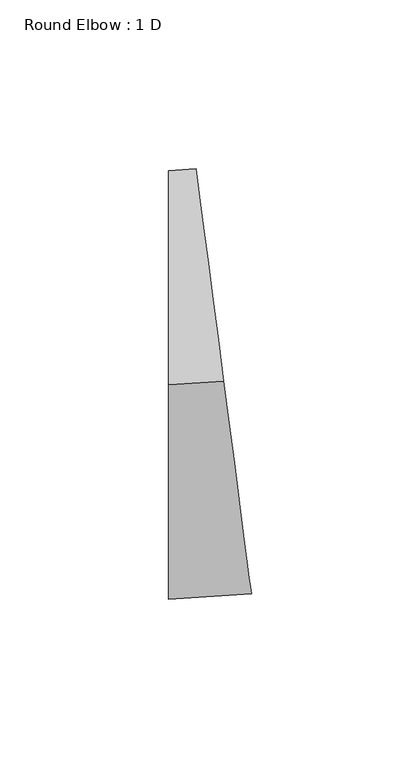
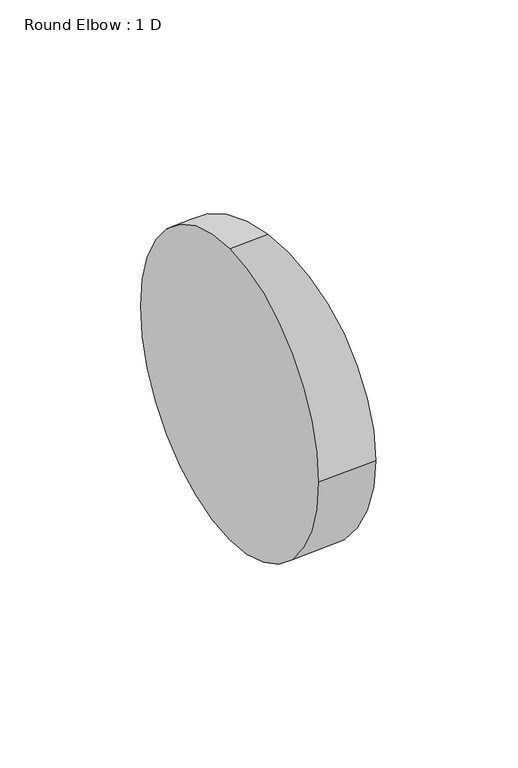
"""IFC4 building model written with IfcOpenShell, lengths in millimetres: duct fitting geometry, Round Elbow : 1 D."""

from ifc_helpers import new_model, si_unit, point, frame, origin, place, context, project, spatial, circle_curve, ellipse_curve, trimmed, source, transform, mapped, element, save
from ifc_brep_helpers import plane_surface, revolved_surface, advanced_brep


def round_elbow_1_d_075332d1(model_context):
    return source(origin(), model_context, "Body", "AdvancedBrep", [
        advanced_brep(
        [(-8.2102409, 0.0, 63.5), (-8.2102409, 63.5, 0.0), (-8.2102409, 0.0, -63.5), (-8.2102409, -63.5, 0.0), (8.1419003, 1.0571261, 63.5), (16.3179709, -61.9143108, 0.0), (8.1419003, 1.0571261, -63.5), (-0.0341703, 64.0285631, 0.0)],
        [
            (0, 1, circle_curve(frame((-8.2102409, 0.0, 0.0), z_axis=(-1.0, 0.0, 0.0), x_axis=(0.0, 1.0, 0.0)), 63.5)),
            (1, 2, circle_curve(frame((-8.2102409, 0.0, 0.0), z_axis=(-1.0, 0.0, 0.0), x_axis=(0.0, 1.0, 0.0)), 63.5)),
            (2, 3, circle_curve(frame((-8.2102409, 0.0, 0.0), z_axis=(-1.0, 0.0, 0.0), x_axis=(0.0, 1.0, 0.0)), 63.5)),
            (3, 0, circle_curve(frame((-8.2102409, 0.0, 0.0), z_axis=(-1.0, 0.0, 0.0), x_axis=(0.0, 1.0, 0.0)), 63.5)),
            (4, 5, circle_curve(frame((8.1419003, 1.0571261, 0.0), z_axis=(0.9916761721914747, 0.1287570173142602, 0.0), x_axis=(-0.1287570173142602, 0.9916761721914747, 0.0)), 63.5)),
            (5, 6, circle_curve(frame((8.1419003, 1.0571261, 0.0), z_axis=(0.9916761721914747, 0.1287570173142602, 0.0), x_axis=(-0.1287570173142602, 0.9916761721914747, 0.0)), 63.5)),
            (6, 7, circle_curve(frame((8.1419003, 1.0571261, 0.0), z_axis=(0.9916761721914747, 0.1287570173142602, 0.0), x_axis=(-0.1287570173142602, 0.9916761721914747, 0.0)), 63.5)),
            (7, 4, circle_curve(frame((8.1419003, 1.0571261, 0.0), z_axis=(0.9916761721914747, 0.1287570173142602, 0.0), x_axis=(-0.1287570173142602, 0.9916761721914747, 0.0)), 63.5)),
            (7, 1, circle_curve(frame((-8.2102409, 127.0, 0.0), z_axis=(0.0, 0.0, -1.0), x_axis=(0.0, -1.0, 0.0)), 63.5)),
            (0, 4, circle_curve(frame((-8.2102409, 127.0, 63.5), z_axis=(0.0, 0.0, 1.0), x_axis=(0.0, -1.0, 0.0)), 127.0)),
            (6, 2, circle_curve(frame((-8.2102409, 127.0, -63.5), z_axis=(0.0, 0.0, -1.0), x_axis=(0.0, -1.0, 0.0)), 127.0)),
            (5, 3, circle_curve(frame((-8.2102409, 127.0, 0.0), z_axis=(0.0, 0.0, -1.0), x_axis=(0.0, -1.0, 0.0)), 190.5)),
        ],
        [
            plane_surface(frame((-8.2102409, 0.0, 0.0), z_axis=(-1.0, 0.0, 0.0), x_axis=(0.0, 0.0, 1.0))),
            plane_surface(frame((8.1419003, 1.0571261, 0.0), z_axis=(0.9916761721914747, 0.12875701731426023, 0.0), x_axis=(0.0, 0.0, 1.0))),
            revolved_surface(trimmed(ellipse_curve(frame((-8.2102409, 0.0, 0.0), z_axis=(-1.0, 0.0, 0.0), x_axis=(0.0, 1.0, 0.0)), 63.5, 63.5), [point((-8.2102409, 0.0, 63.5))], [point((-8.2102409, 63.5, 0.0))], True, "CARTESIAN"), (-8.2102409, 127.0, 0.0), (0.0, 0.0, 1.0)),
            revolved_surface(trimmed(ellipse_curve(frame((-8.2102409, 0.0, 0.0), z_axis=(-1.0, 0.0, 0.0), x_axis=(0.0, 1.0, 0.0)), 63.5, 63.5), [point((-8.2102409, 63.5, 0.0))], [point((-8.2102409, 0.0, -63.5))], True, "CARTESIAN"), (-8.2102409, 127.0, 0.0), (0.0, 0.0, 1.0)),
            revolved_surface(trimmed(ellipse_curve(frame((-8.2102409, 0.0, 0.0), z_axis=(-1.0, 0.0, 0.0), x_axis=(0.0, 1.0, 0.0)), 63.5, 63.5), [point((-8.2102409, 0.0, -63.5))], [point((-8.2102409, -63.5, 0.0))], True, "CARTESIAN"), (-8.2102409, 127.0, 0.0), (0.0, 0.0, 1.0)),
            revolved_surface(trimmed(ellipse_curve(frame((-8.2102409, 0.0, 0.0), z_axis=(-1.0, 0.0, 0.0), x_axis=(0.0, 1.0, 0.0)), 63.5, 63.5), [point((-8.2102409, -63.5, 0.0))], [point((-8.2102409, 0.0, 63.5))], True, "CARTESIAN"), (-8.2102409, 127.0, 0.0), (0.0, 0.0, 1.0)),
        ],
        [
            (0, [[1, 2, 3, 4]]),
            (1, [[5, 6, 7, 8]]),
            (2, [[9, -1, 10, -8]]),
            (3, [[11, -2, -9, -7]]),
            (4, [[12, -3, -11, -6]]),
            (5, [[-10, -4, -12, -5]]),
        ],
    ),
    ])


if __name__ == "__main__":
    model = new_model("IFC4")
    model_context = context("Model", 3, world=origin())
    ifc_project = project(units=[si_unit("LENGTHUNIT", "METRE", prefix="MILLI")], contexts=[model_context])
    site = spatial("IfcSite", under=ifc_project)
    building = spatial("IfcBuilding", under=site)
    placement = place(None, origin())
    round_elbow_1_d_shape = round_elbow_1_d_075332d1(model_context)
    element("IfcDuctFitting", 1, ObjectType="Round Elbow : 1 D", at=placement, inside=building, context=model_context, shape_type="MappedRepresentation", body=[
        mapped(round_elbow_1_d_shape, transform((0.0, 0.0, 0.0), x_axis=(1.0, 0.0, 0.0), y_axis=(0.0, 1.0, 0.0), z_axis=(0.0, 0.0, 1.0))),
    ])
    save(model, "model.ifc")
